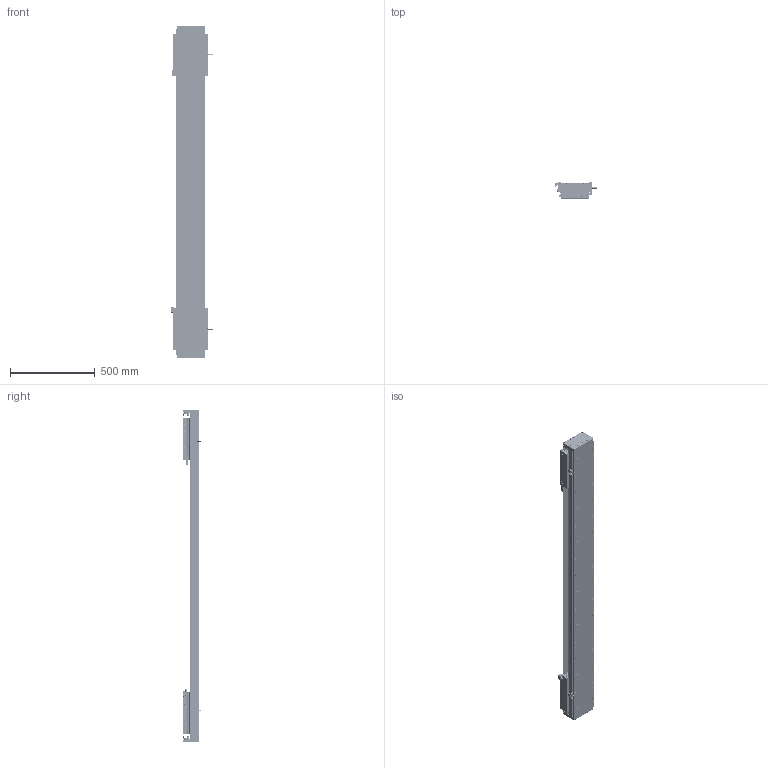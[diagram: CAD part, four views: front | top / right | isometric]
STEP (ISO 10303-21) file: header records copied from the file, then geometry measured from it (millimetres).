
FILE_DESCRIPTION (( 'STEP AP203' ), '1' );
FILE_NAME ('DA-C165-2-C3-T1340-C010-0.2 直线电机.STEP', '2023-06-13T09:24:52', ( '微软用户' ), ( '微软中国' ), 'SwSTEP 2.0', 'SolidWorks 2019', '' );
FILE_SCHEMA (( 'CONFIG_CONTROL_DESIGN' ));
Length unit declared in the file: millimetre
Products named in the file (22): 复件 DA165-GD-1860-002-00 钢带盖板^复件 CU165钢带组件_DA-C165-C3-T-C010-0.2-N 直线电机; 葩璃 CKM01-W075-TRL^DA-C165-C3-T-C010-0.2-N 眻盄萇儂; 复件 DMA-010-0.2 读数头^DA-C165-C3-T-C010-0.2-N 直线电机; 复件 66338-1000-006-00 光电感应块^DA-C165-C3-T-C010-0.2-N 直线电机; 复件 DA165-GDLK-00 钢带拉块^复件 CU165钢带组件_DA-C165-C3-T-C010-0.2-N 直线电机; IU-CU165-L 菁釱絳寢; 复件 DKW-HXJ-JY-00 缓冲橡胶^DA-C165-C3-T-C010-0.2-N 直线电机; 复件 六角薄螺母 M3^DA-C165-C3-T-C010-0.2-N 直线电机_GB_FASTENER_NUT_STNAB M3-C; 复件 CU165钢带组件^DA-C165-C3-T-C010-0.2-N 直线电机; 复件 DA165-GD-DG-H-00 端盖^复件 CU165钢带组件_DA-C165-C3-T-C010-0.2-N 直线电机; 复件 DA165-GYP-00 光电感应片^DA-C165-C3-T-C010-0.2-N 直线电机; 珨极趙賑雄怢啣C3-wf; 葩璃 DA95-GT-T-00^IU-CU165-L 菁釱絳寢_T; 葩璃 PM-Y45^DA-C165-C3-T-C010-0.2-N 眻盄萇儂; 葩璃 PM-T45^DA-C165-C3-T-C010-0.2-N 眻盄萇儂; 复件 CU165 底座^IU-CU165-L 底座导轨_L1920; DA-C165-2-C3-T1340-C010-0.2 眻盄萇儂; 复件 DA95-HXJ-00 缓冲橡胶^DA-C165-C3-T-C010-0.2-N 直线电机; 葩璃 CKM03-W075-C1C2-TP-3.0^DA-C165-C3-T-C010-0.2-N 眻盄萇儂; 复件 DA165-GDYK-00 钢带压块^复件 CU165钢带组件_DA-C165-C3-T-C010-0.2-N 直线电机; 复件 DA126-GYP-ZJ-00 中间光电感应片^DA-C165-C3-T-C010-0.2-N 直线电机; 复件 XD-U-02L 磁栅尺^DA-C165-C3-T-C010-0.2-N 直线电机_T
Assembly tree (45 placements, depth 3):
  DA-C165-2-C3-T1340-C010-0.2 眻盄萇儂
    IU-CU165-L 菁釱絳寢
      复件 CU165 底座^IU-CU165-L 底座导轨_L1920
      葩璃 DA95-GT-T-00^IU-CU165-L 菁釱絳寢_T  x4
    复件 XD-U-02L 磁栅尺^DA-C165-C3-T-C010-0.2-N 直线电机_T
    葩璃 PM-T45^DA-C165-C3-T-C010-0.2-N 眻盄萇儂  x4
    葩璃 CKM01-W075-TRL^DA-C165-C3-T-C010-0.2-N 眻盄萇儂
    复件 CU165钢带组件^DA-C165-C3-T-C010-0.2-N 直线电机
      复件 DA165-GD-DG-H-00 端盖^复件 CU165钢带组件_DA-C165-C3-T-C010-0.2-N 直线电机  x2
      复件 DA165-GDYK-00 钢带压块^复件 CU165钢带组件_DA-C165-C3-T-C010-0.2-N 直线电机  x2
      复件 DA165-GD-1860-002-00 钢带盖板^复件 CU165钢带组件_DA-C165-C3-T-C010-0.2-N 直线电机
      复件 DA165-GDLK-00 钢带拉块^复件 CU165钢带组件_DA-C165-C3-T-C010-0.2-N 直线电机  x2
    复件 DA95-HXJ-00 缓冲橡胶^DA-C165-C3-T-C010-0.2-N 直线电机  x4
    复件 DMA-010-0.2 读数头^DA-C165-C3-T-C010-0.2-N 直线电机  x2
    复件 DA165-GYP-00 光电感应片^DA-C165-C3-T-C010-0.2-N 直线电机  x2
    复件 66338-1000-006-00 光电感应块^DA-C165-C3-T-C010-0.2-N 直线电机
    葩璃 PM-Y45^DA-C165-C3-T-C010-0.2-N 眻盄萇儂
    复件 DA126-GYP-ZJ-00 中间光电感应片^DA-C165-C3-T-C010-0.2-N 直线电机
    葩璃 CKM03-W075-C1C2-TP-3.0^DA-C165-C3-T-C010-0.2-N 眻盄萇儂  x2
    复件 DKW-HXJ-JY-00 缓冲橡胶^DA-C165-C3-T-C010-0.2-N 直线电机  x2
    复件 六角薄螺母 M3^DA-C165-C3-T-C010-0.2-N 直线电机_GB_FASTENER_NUT_STNAB M3-C  x8
    珨极趙賑雄怢啣C3-wf  x2
Bounding box: 247.2 x 111.45 x 1960 mm (x, y, z)
Volume: 14096545.4 mm3; surface area: 3841979.6 mm2
Topology: 121 solids, 221 shells, 6221 faces, 16618 edges, 10276 vertices
Faces by surface type: cylinder 3158, plane 1995, cone 980, torus 80, sphere 8
Entity records: 131098 total; most frequent: CARTESIAN_POINT 33201, DIRECTION 19898, ORIENTED_EDGE 19820, EDGE_CURVE 9910, AXIS2_PLACEMENT_3D 7563, VERTEX_POINT 6430, LINE 4772, VECTOR 4772
